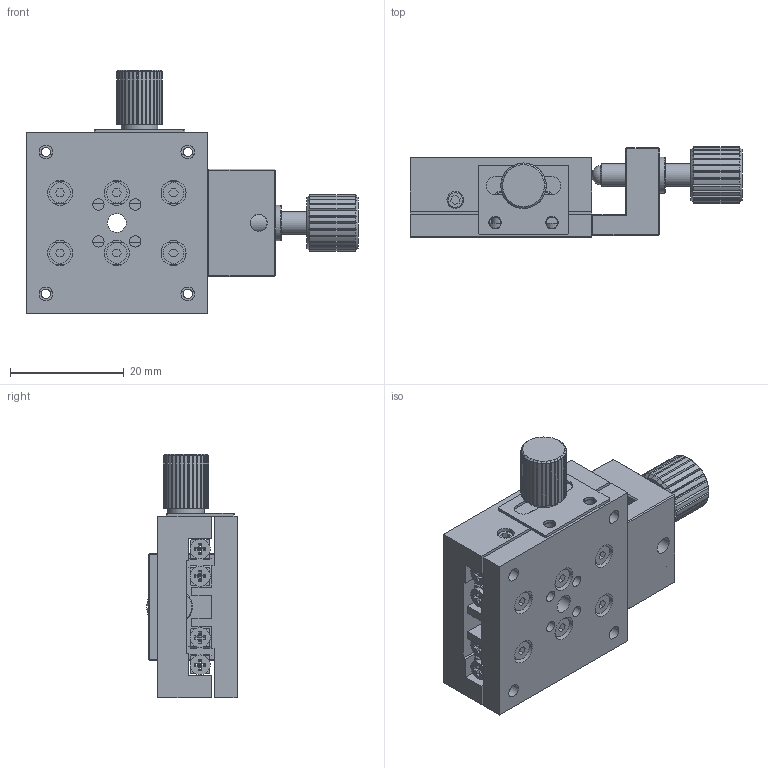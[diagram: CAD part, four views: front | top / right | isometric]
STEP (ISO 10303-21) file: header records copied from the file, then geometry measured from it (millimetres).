
FILE_DESCRIPTION (( 'STEP AP203' ), '1' );
FILE_NAME ('TCS32-03A.step', '2017-01-10T09:16:42', ( '¦K¬P' ), ( '' ), 'SwSTEP 2.0', 'SolidWorks 2012', '' );
FILE_SCHEMA (( 'CONFIG_CONTROL_DESIGN' ));
Length unit declared in the file: millimetre
Products named in the file (1): TCS32-03A
Bounding box: 58.5 x 15.9 x 42.9 mm (x, y, z)
Surface area: 11019.3 mm2 (no closed solid volume)
Topology: 0 solids, 41 shells, 637 faces, 1856 edges, 1271 vertices
Faces by surface type: plane 477, cylinder 148, cone 11, sphere 1
Full cylindrical faces by diameter (mm): 1.6 x15, 2 x10, 2.2 x2, 2.4 x4, 2.5 x3, 3 x7, 3.3 x2, 3.5 x6, 3.6 x14, 4 x1, 4.2 x2, 4.4 x15, 6 x1, 6.3 x1, 6.4 x1
Entity records: 20616 total; most frequent: CARTESIAN_POINT 4222, DIRECTION 3196, ORIENTED_EDGE 3119, EDGE_CURVE 1745, VERTEX_POINT 1255, LINE 1226, VECTOR 1226, AXIS2_PLACEMENT_3D 985
